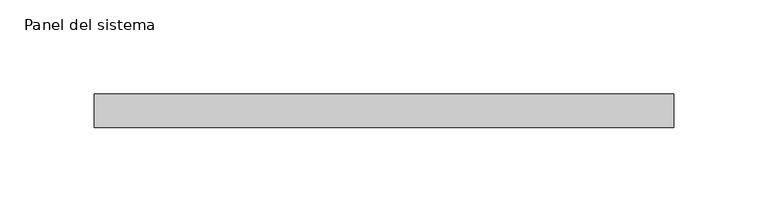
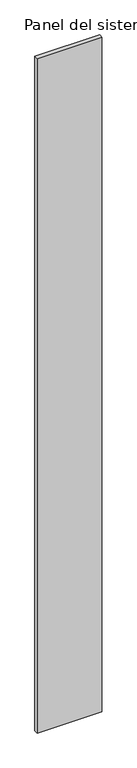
"""IFC4 building model written with IfcOpenShell, lengths in millimetres: plate geometry, Panel del sistema : HIANSA - CHAPA PERFILADA CUBIERTA - MO18."""

from ifc_helpers import new_model, si_unit, origin, origin_with_axes, place, context, project, spatial, polyline, outline, extrude, source, transform, mapped, element, save


def panel_del_sistema_d2400ea1(model_context):
    return source(origin(), model_context, "Body", "SweptSolid", [
        extrude(outline(polyline([(153.9999998, 0.0), (-153.9999998, 0.0), (-153.9999998, 18.0), (153.9999998, 18.0), (153.9999998, 0.0)])), origin_with_axes(), (0.0, 0.0, 1.0), 3390.8509027),
    ])


if __name__ == "__main__":
    model = new_model("IFC4")
    model_context = context("Model", 3, world=origin())
    ifc_project = project(units=[si_unit("LENGTHUNIT", "METRE", prefix="MILLI")], contexts=[model_context])
    site = spatial("IfcSite", under=ifc_project)
    building = spatial("IfcBuilding", under=site)
    placement = place(None, origin())
    panel_del_sistema_shape = panel_del_sistema_d2400ea1(model_context)
    element("IfcPlate", 1, ObjectType="Panel del sistema : HIANSA - CHAPA PERFILADA CUBIERTA - MO18", at=placement, inside=building, context=model_context, shape_type="MappedRepresentation", body=[
        mapped(panel_del_sistema_shape, transform((0.0, 0.0, 0.0), x_axis=(1.0, 0.0, 0.0), y_axis=(0.0, 1.0, 0.0), z_axis=(0.0, 0.0, 1.0))),
    ])
    save(model, "model.ifc")
